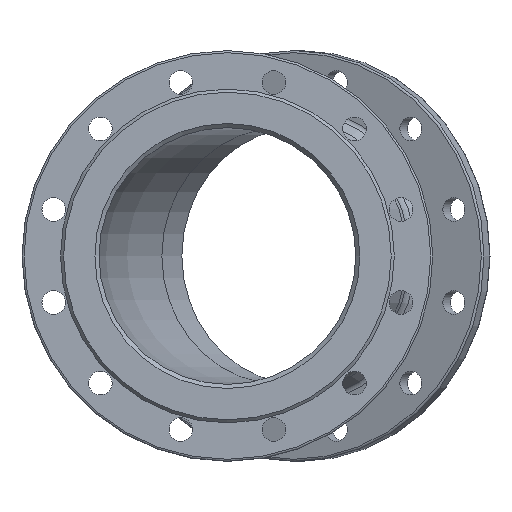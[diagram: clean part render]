
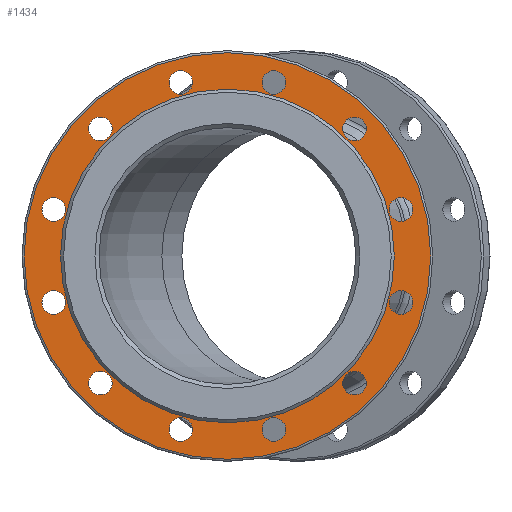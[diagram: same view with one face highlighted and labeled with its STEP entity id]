
A CAD part, left-side view. The second image highlights one B-rep face of the part: STEP entity #1434.
In plain terms, the highlighted planar face has unit normal (-1, 0, 0).
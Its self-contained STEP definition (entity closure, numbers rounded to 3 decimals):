
#21 = CARTESIAN_POINT ( 'NONE',  ( 3., 169.037, -56.793 ) ) ;
#27 = DIRECTION ( 'NONE',  ( -1., 0., 0. ) ) ;
#60 = CARTESIAN_POINT ( 'NONE',  ( 3., -45.293, -169.037 ) ) ;
#75 = DIRECTION ( 'NONE',  ( -1., 0., 0. ) ) ;
#103 = VERTEX_POINT ( 'NONE', #1242 ) ;
#130 = FACE_BOUND ( 'NONE', #2427, .T. ) ;
#172 = EDGE_LOOP ( 'NONE', ( #2342 ) ) ;
#184 = AXIS2_PLACEMENT_3D ( 'NONE', #2729, #549, #812 ) ;
#186 = AXIS2_PLACEMENT_3D ( 'NONE', #1653, #2713, #2531 ) ;
#191 = FACE_BOUND ( 'NONE', #1660, .T. ) ;
#193 = VERTEX_POINT ( 'NONE', #862 ) ;
#228 = CIRCLE ( 'NONE', #2270, 198. ) ;
#230 = DIRECTION ( 'NONE',  ( 0., 0., -1. ) ) ;
#273 = VERTEX_POINT ( 'NONE', #544 ) ;
#284 = AXIS2_PLACEMENT_3D ( 'NONE', #60, #27, #1327 ) ;
#298 = CARTESIAN_POINT ( 'NONE',  ( 3., 0., 0. ) ) ;
#316 = ORIENTED_EDGE ( 'NONE', *, *, #445, .F. ) ;
#319 = EDGE_LOOP ( 'NONE', ( #1080 ) ) ;
#343 = DIRECTION ( 'NONE',  ( -1., 0., 0. ) ) ;
#345 = ORIENTED_EDGE ( 'NONE', *, *, #1708, .F. ) ;
#347 = EDGE_LOOP ( 'NONE', ( #1914 ) ) ;
#383 = FACE_BOUND ( 'NONE', #2416, .T. ) ;
#395 = DIRECTION ( 'NONE',  ( 0., 0., -1. ) ) ;
#407 = CARTESIAN_POINT ( 'NONE',  ( 3., 0., 162.5 ) ) ;
#415 = CIRCLE ( 'NONE', #2316, 11.5 ) ;
#418 = AXIS2_PLACEMENT_3D ( 'NONE', #2000, #1096, #230 ) ;
#421 = CARTESIAN_POINT ( 'NONE',  ( 3., -123.744, -123.744 ) ) ;
#445 = EDGE_CURVE ( 'NONE', #1083, #1083, #1294, .T. ) ;
#452 = EDGE_CURVE ( 'NONE', #2855, #2855, #1716, .T. ) ;
#459 = EDGE_CURVE ( 'NONE', #193, #193, #1055, .T. ) ;
#508 = DIRECTION ( 'NONE',  ( -1., 0., 0. ) ) ;
#537 = DIRECTION ( 'NONE',  ( 0., 0., -1. ) ) ;
#544 = CARTESIAN_POINT ( 'NONE',  ( 3., 123.744, 112.244 ) ) ;
#549 = DIRECTION ( 'NONE',  ( -1., 0., 0. ) ) ;
#557 = CARTESIAN_POINT ( 'NONE',  ( 3., -169.037, -56.793 ) ) ;
#571 = EDGE_LOOP ( 'NONE', ( #998 ) ) ;
#586 = CARTESIAN_POINT ( 'NONE',  ( 3., -169.037, 33.793 ) ) ;
#589 = FACE_BOUND ( 'NONE', #882, .T. ) ;
#602 = EDGE_CURVE ( 'NONE', #642, #642, #2545, .T. ) ;
#622 = DIRECTION ( 'NONE',  ( 0., 0., -1. ) ) ;
#642 = VERTEX_POINT ( 'NONE', #1322 ) ;
#653 = AXIS2_PLACEMENT_3D ( 'NONE', #1462, #1405, #1640 ) ;
#661 = CIRCLE ( 'NONE', #2366, 11.5 ) ;
#751 = CIRCLE ( 'NONE', #2317, 11.5 ) ;
#790 = VERTEX_POINT ( 'NONE', #557 ) ;
#807 = ORIENTED_EDGE ( 'NONE', *, *, #2564, .F. ) ;
#812 = DIRECTION ( 'NONE',  ( 0., 0., -1. ) ) ;
#846 = EDGE_LOOP ( 'NONE', ( #1187 ) ) ;
#847 = FACE_BOUND ( 'NONE', #2849, .T. ) ;
#851 = EDGE_CURVE ( 'NONE', #273, #273, #1438, .T. ) ;
#862 = CARTESIAN_POINT ( 'NONE',  ( 3., 123.744, -135.244 ) ) ;
#882 = EDGE_LOOP ( 'NONE', ( #1765 ) ) ;
#939 = EDGE_CURVE ( 'NONE', #1140, #1140, #751, .T. ) ;
#967 = CARTESIAN_POINT ( 'NONE',  ( 3., -169.037, 45.293 ) ) ;
#998 = ORIENTED_EDGE ( 'NONE', *, *, #1547, .F. ) ;
#1018 = DIRECTION ( 'NONE',  ( 0., 0., -1. ) ) ;
#1026 = VERTEX_POINT ( 'NONE', #1200 ) ;
#1029 = DIRECTION ( 'NONE',  ( -1., 0., 0. ) ) ;
#1043 = DIRECTION ( 'NONE',  ( 1., 0., 0. ) ) ;
#1055 = CIRCLE ( 'NONE', #2129, 11.5 ) ;
#1068 = FACE_BOUND ( 'NONE', #1146, .T. ) ;
#1080 = ORIENTED_EDGE ( 'NONE', *, *, #2471, .F. ) ;
#1083 = VERTEX_POINT ( 'NONE', #407 ) ;
#1096 = DIRECTION ( 'NONE',  ( -1., 0., 0. ) ) ;
#1140 = VERTEX_POINT ( 'NONE', #1830 ) ;
#1146 = EDGE_LOOP ( 'NONE', ( #1835 ) ) ;
#1187 = ORIENTED_EDGE ( 'NONE', *, *, #2684, .F. ) ;
#1200 = CARTESIAN_POINT ( 'NONE',  ( 3., 0., -198. ) ) ;
#1235 = DIRECTION ( 'NONE',  ( 0., 0., -1. ) ) ;
#1242 = CARTESIAN_POINT ( 'NONE',  ( 3., -45.293, -180.537 ) ) ;
#1244 = DIRECTION ( 'NONE',  ( 0., 0., -1. ) ) ;
#1258 = AXIS2_PLACEMENT_3D ( 'NONE', #1410, #508, #2289 ) ;
#1265 = FACE_BOUND ( 'NONE', #172, .T. ) ;
#1294 = CIRCLE ( 'NONE', #2084, 162.5 ) ;
#1322 = CARTESIAN_POINT ( 'NONE',  ( 3., 45.293, 157.537 ) ) ;
#1327 = DIRECTION ( 'NONE',  ( 0., 0., -1. ) ) ;
#1405 = DIRECTION ( 'NONE',  ( -1., 0., 0. ) ) ;
#1410 = CARTESIAN_POINT ( 'NONE',  ( 3., 169.037, -45.293 ) ) ;
#1431 = DIRECTION ( 'NONE',  ( 0., 0., -1. ) ) ;
#1434 = ADVANCED_FACE ( 'NONE', ( #2162, #1730, #589, #1703, #847, #383, #2800, #1068, #2401, #1689, #191, #130, #1265, #1915 ), #2839, .F. ) ;
#1438 = CIRCLE ( 'NONE', #184, 11.5 ) ;
#1462 = CARTESIAN_POINT ( 'NONE',  ( 3., 45.293, -169.037 ) ) ;
#1487 = CIRCLE ( 'NONE', #653, 11.5 ) ;
#1518 = CARTESIAN_POINT ( 'NONE',  ( 3., -123.744, 123.744 ) ) ;
#1539 = CIRCLE ( 'NONE', #284, 11.5 ) ;
#1547 = EDGE_CURVE ( 'NONE', #2510, #2510, #2825, .T. ) ;
#1640 = DIRECTION ( 'NONE',  ( 0., 0., -1. ) ) ;
#1642 = DIRECTION ( 'NONE',  ( 0., 0., -1. ) ) ;
#1651 = DIRECTION ( 'NONE',  ( 0., 0., 1. ) ) ;
#1653 = CARTESIAN_POINT ( 'NONE',  ( 3., -169.037, -45.293 ) ) ;
#1660 = EDGE_LOOP ( 'NONE', ( #807 ) ) ;
#1668 = ORIENTED_EDGE ( 'NONE', *, *, #2144, .F. ) ;
#1687 = EDGE_LOOP ( 'NONE', ( #316 ) ) ;
#1688 = VERTEX_POINT ( 'NONE', #1913 ) ;
#1689 = FACE_BOUND ( 'NONE', #846, .T. ) ;
#1691 = CARTESIAN_POINT ( 'NONE',  ( 3., 0., 0. ) ) ;
#1703 = FACE_BOUND ( 'NONE', #2310, .T. ) ;
#1708 = EDGE_CURVE ( 'NONE', #2525, #2525, #1946, .T. ) ;
#1716 = CIRCLE ( 'NONE', #2314, 11.5 ) ;
#1718 = CIRCLE ( 'NONE', #186, 11.5 ) ;
#1729 = ORIENTED_EDGE ( 'NONE', *, *, #851, .F. ) ;
#1730 = FACE_BOUND ( 'NONE', #1687, .T. ) ;
#1765 = ORIENTED_EDGE ( 'NONE', *, *, #602, .F. ) ;
#1773 = DIRECTION ( 'NONE',  ( -1., 0., 0. ) ) ;
#1830 = CARTESIAN_POINT ( 'NONE',  ( 3., -123.744, 112.244 ) ) ;
#1835 = ORIENTED_EDGE ( 'NONE', *, *, #2640, .F. ) ;
#1853 = AXIS2_PLACEMENT_3D ( 'NONE', #2379, #2191, #395 ) ;
#1878 = DIRECTION ( 'NONE',  ( -1., 0., 0. ) ) ;
#1913 = CARTESIAN_POINT ( 'NONE',  ( 3., -123.744, -135.244 ) ) ;
#1914 = ORIENTED_EDGE ( 'NONE', *, *, #2647, .T. ) ;
#1915 = FACE_BOUND ( 'NONE', #571, .T. ) ;
#1916 = CARTESIAN_POINT ( 'NONE',  ( 3., 169.037, 45.293 ) ) ;
#1929 = EDGE_LOOP ( 'NONE', ( #1994 ) ) ;
#1946 = CIRCLE ( 'NONE', #1258, 11.5 ) ;
#1994 = ORIENTED_EDGE ( 'NONE', *, *, #459, .F. ) ;
#2000 = CARTESIAN_POINT ( 'NONE',  ( 3., -45.293, 169.037 ) ) ;
#2028 = ORIENTED_EDGE ( 'NONE', *, *, #452, .F. ) ;
#2084 = AXIS2_PLACEMENT_3D ( 'NONE', #1691, #1029, #1651 ) ;
#2116 = VERTEX_POINT ( 'NONE', #586 ) ;
#2129 = AXIS2_PLACEMENT_3D ( 'NONE', #2539, #2311, #1235 ) ;
#2144 = EDGE_CURVE ( 'NONE', #2116, #2116, #661, .T. ) ;
#2162 = FACE_OUTER_BOUND ( 'NONE', #347, .T. ) ;
#2175 = CARTESIAN_POINT ( 'NONE',  ( 3., 169.037, 33.793 ) ) ;
#2191 = DIRECTION ( 'NONE',  ( -1., 0., 0. ) ) ;
#2270 = AXIS2_PLACEMENT_3D ( 'NONE', #298, #75, #537 ) ;
#2289 = DIRECTION ( 'NONE',  ( 0., 0., -1. ) ) ;
#2307 = CARTESIAN_POINT ( 'NONE',  ( 3., -45.293, 157.537 ) ) ;
#2310 = EDGE_LOOP ( 'NONE', ( #1729 ) ) ;
#2311 = DIRECTION ( 'NONE',  ( -1., 0., 0. ) ) ;
#2314 = AXIS2_PLACEMENT_3D ( 'NONE', #1916, #1878, #1431 ) ;
#2316 = AXIS2_PLACEMENT_3D ( 'NONE', #421, #1773, #1018 ) ;
#2317 = AXIS2_PLACEMENT_3D ( 'NONE', #1518, #2422, #622 ) ;
#2320 = AXIS2_PLACEMENT_3D ( 'NONE', #2594, #1043, #1244 ) ;
#2342 = ORIENTED_EDGE ( 'NONE', *, *, #939, .F. ) ;
#2366 = AXIS2_PLACEMENT_3D ( 'NONE', #967, #343, #1642 ) ;
#2379 = CARTESIAN_POINT ( 'NONE',  ( 3., 45.293, 169.037 ) ) ;
#2401 = FACE_BOUND ( 'NONE', #319, .T. ) ;
#2416 = EDGE_LOOP ( 'NONE', ( #345 ) ) ;
#2422 = DIRECTION ( 'NONE',  ( -1., 0., 0. ) ) ;
#2427 = EDGE_LOOP ( 'NONE', ( #1668 ) ) ;
#2471 = EDGE_CURVE ( 'NONE', #103, #103, #1539, .T. ) ;
#2510 = VERTEX_POINT ( 'NONE', #2307 ) ;
#2525 = VERTEX_POINT ( 'NONE', #21 ) ;
#2531 = DIRECTION ( 'NONE',  ( 0., 0., -1. ) ) ;
#2539 = CARTESIAN_POINT ( 'NONE',  ( 3., 123.744, -123.744 ) ) ;
#2545 = CIRCLE ( 'NONE', #1853, 11.5 ) ;
#2555 = VERTEX_POINT ( 'NONE', #2592 ) ;
#2564 = EDGE_CURVE ( 'NONE', #790, #790, #1718, .T. ) ;
#2592 = CARTESIAN_POINT ( 'NONE',  ( 3., 45.293, -180.537 ) ) ;
#2594 = CARTESIAN_POINT ( 'NONE',  ( 3., 162.5, 0. ) ) ;
#2640 = EDGE_CURVE ( 'NONE', #2555, #2555, #1487, .T. ) ;
#2647 = EDGE_CURVE ( 'NONE', #1026, #1026, #228, .T. ) ;
#2684 = EDGE_CURVE ( 'NONE', #1688, #1688, #415, .T. ) ;
#2713 = DIRECTION ( 'NONE',  ( -1., 0., 0. ) ) ;
#2729 = CARTESIAN_POINT ( 'NONE',  ( 3., 123.744, 123.744 ) ) ;
#2800 = FACE_BOUND ( 'NONE', #1929, .T. ) ;
#2825 = CIRCLE ( 'NONE', #418, 11.5 ) ;
#2839 = PLANE ( 'NONE',  #2320 ) ;
#2849 = EDGE_LOOP ( 'NONE', ( #2028 ) ) ;
#2855 = VERTEX_POINT ( 'NONE', #2175 ) ;
